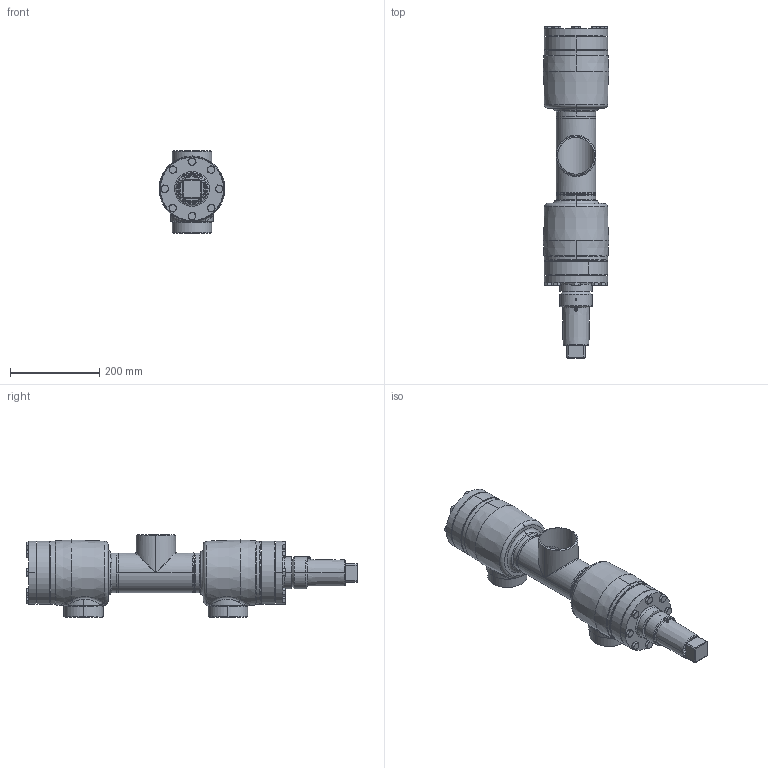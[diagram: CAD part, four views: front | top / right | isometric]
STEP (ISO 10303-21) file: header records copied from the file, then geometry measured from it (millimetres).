
FILE_DESCRIPTION (( 'STEP AP214' ), '1' );
FILE_NAME ('WVB23000D18-DN080_R1_PS40.STEP', '2010-09-08T08:15:37', ( 'Eckhard Grams' ), ( 'AWP Kälte Klima Armaturen GmbH' ), 'SwSTEP 2.0', 'SolidWorks 2002296', '' );
FILE_SCHEMA (( 'AUTOMOTIVE_DESIGN' ));
Length unit declared in the file: millimetre
Products named in the file (15): WVB23000D18-DN080_R1_PS40; WVB-R23000E18_Deck+Schr-DN80_Standard; Deckel23000E18-DN80_Standard; Geh,kpl23000E18-DN080_R1_PS40_Standard; Kopfstück16300-DN080_Standard; T-Stück DIN2615_DN 80; Gehäuse23000E18-DN080_R1_PS40_Standard; bead23000-18-2kopf_Standard; bead23000-18-1kopf_Standard; bead23000-18-2_Standard; bead23000-18-1_Standard; Kappe 16402-19_DN80-100 (M60x3)_Standard; AVB16300E18_Deck+Schr-DN80_Standard; Deckel16300E18-DN80_Standard; Sechskantschraube-DIN933_M10x 30
Assembly tree (31 placements, depth 3):
  WVB23000D18-DN080_R1_PS40
    AVB16300E18_Deck+Schr-DN80_Standard
      Sechskantschraube-DIN933_M10x 30  x8
      Deckel16300E18-DN80_Standard
    WVB-R23000E18_Deck+Schr-DN80_Standard
      Deckel23000E18-DN80_Standard
      Sechskantschraube-DIN933_M10x 30  x8
    Geh,kpl23000E18-DN080_R1_PS40_Standard
      bead23000-18-1kopf_Standard
      bead23000-18-2kopf_Standard
      Kopfstück16300-DN080_Standard  x2
      T-Stück DIN2615_DN 80
      bead23000-18-2_Standard
      bead23000-18-1_Standard
      Gehäuse23000E18-DN080_R1_PS40_Standard  x2
    Kappe 16402-19_DN80-100 (M60x3)_Standard
Bounding box: 147.49 x 745.4 x 186 mm (x, y, z)
Volume: 3399355.8 mm3; surface area: 721354.9 mm2
Topology: 28 solids, 28 shells, 735 faces, 1601 edges, 950 vertices
Faces by surface type: cone 281, plane 204, cylinder 184, bspline 44, torus 22
Entity records: 32341 total; most frequent: CARTESIAN_POINT 24521, DIRECTION 1476, ORIENTED_EDGE 1370, EDGE_CURVE 685, AXIS2_PLACEMENT_3D 637, VERTEX_POINT 421, EDGE_LOOP 374, CIRCLE 333
